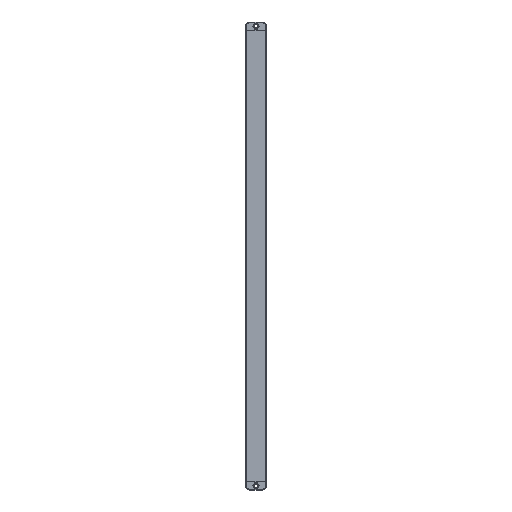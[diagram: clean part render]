
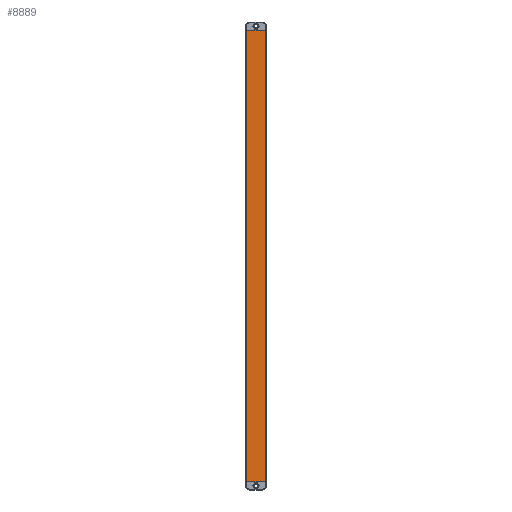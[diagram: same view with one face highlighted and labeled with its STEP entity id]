
A CAD part, front view. The second image highlights one B-rep face of the part: STEP entity #8889.
In plain terms, the highlighted planar face has unit normal (0, -1, 0).
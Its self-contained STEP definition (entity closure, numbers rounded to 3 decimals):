
#157 = CARTESIAN_POINT ( 'NONE',  ( 11.5, -6., 550. ) ) ;
#620 = LINE ( 'NONE', #6817, #4156 ) ;
#639 = VERTEX_POINT ( 'NONE', #6639 ) ;
#743 = EDGE_CURVE ( 'NONE', #1729, #639, #620, .T. ) ;
#987 = EDGE_CURVE ( 'NONE', #9746, #639, #1120, .T. ) ;
#1120 = LINE ( 'NONE', #4660, #9059 ) ;
#1210 = AXIS2_PLACEMENT_3D ( 'NONE', #6683, #10225, #2271 ) ;
#1371 = ORIENTED_EDGE ( 'NONE', *, *, #5970, .F. ) ;
#1729 = VERTEX_POINT ( 'NONE', #157 ) ;
#2030 = VERTEX_POINT ( 'NONE', #4591 ) ;
#2271 = DIRECTION ( 'NONE',  ( 0., 0., 1. ) ) ;
#3092 = CARTESIAN_POINT ( 'NONE',  ( -11.5, -6., 550. ) ) ;
#3152 = PLANE ( 'NONE',  #1210 ) ;
#3331 = CARTESIAN_POINT ( 'NONE',  ( -11.5, -6., 550. ) ) ;
#3689 = VECTOR ( 'NONE', #6631, 1000. ) ;
#3719 = EDGE_CURVE ( 'NONE', #2030, #9746, #11280, .T. ) ;
#4156 = VECTOR ( 'NONE', #10359, 1000. ) ;
#4591 = CARTESIAN_POINT ( 'NONE',  ( -11.5, -6., 550. ) ) ;
#4660 = CARTESIAN_POINT ( 'NONE',  ( -0.005, -6., 0. ) ) ;
#4858 = CARTESIAN_POINT ( 'NONE',  ( -11.5, -6., 0. ) ) ;
#4920 = ORIENTED_EDGE ( 'NONE', *, *, #3719, .T. ) ;
#5970 = EDGE_CURVE ( 'NONE', #2030, #1729, #11039, .T. ) ;
#6522 = EDGE_LOOP ( 'NONE', ( #7523, #9317, #1371, #4920 ) ) ;
#6631 = DIRECTION ( 'NONE',  ( 1., 0., 0. ) ) ;
#6639 = CARTESIAN_POINT ( 'NONE',  ( 11.5, -6., 0. ) ) ;
#6683 = CARTESIAN_POINT ( 'NONE',  ( -0.005, -6., 550. ) ) ;
#6817 = CARTESIAN_POINT ( 'NONE',  ( 11.5, -6., 550. ) ) ;
#6881 = DIRECTION ( 'NONE',  ( 0., 0., -1. ) ) ;
#7523 = ORIENTED_EDGE ( 'NONE', *, *, #987, .T. ) ;
#8195 = DIRECTION ( 'NONE',  ( 1., 0., 0. ) ) ;
#8560 = VECTOR ( 'NONE', #6881, 1000. ) ;
#8889 = ADVANCED_FACE ( 'NONE', ( #11099 ), #3152, .F. ) ;
#9059 = VECTOR ( 'NONE', #8195, 1000. ) ;
#9317 = ORIENTED_EDGE ( 'NONE', *, *, #743, .F. ) ;
#9746 = VERTEX_POINT ( 'NONE', #4858 ) ;
#10225 = DIRECTION ( 'NONE',  ( 0., 1., 0. ) ) ;
#10359 = DIRECTION ( 'NONE',  ( 0., 0., -1. ) ) ;
#11039 = LINE ( 'NONE', #3092, #3689 ) ;
#11099 = FACE_OUTER_BOUND ( 'NONE', #6522, .T. ) ;
#11280 = LINE ( 'NONE', #3331, #8560 ) ;
